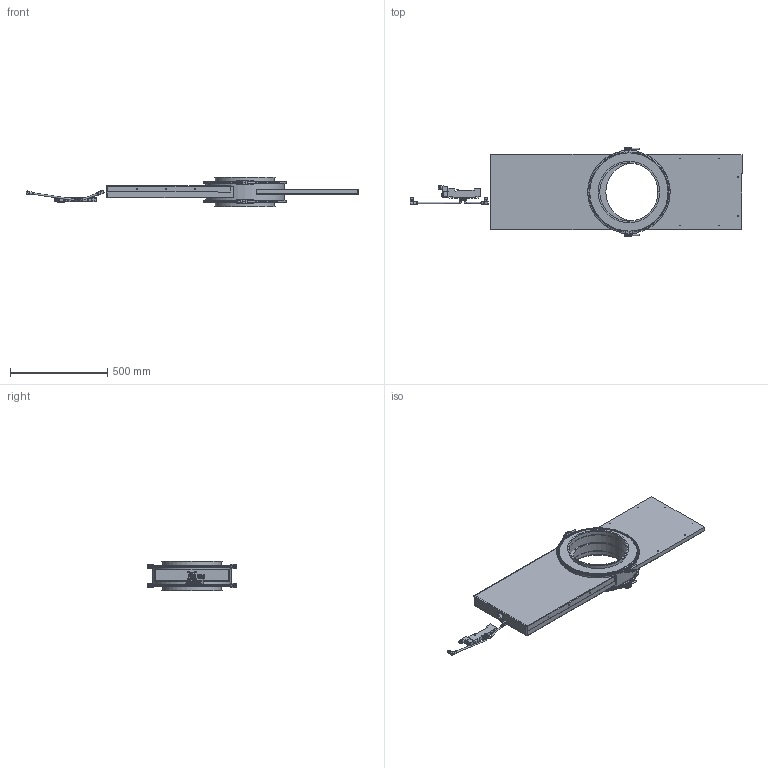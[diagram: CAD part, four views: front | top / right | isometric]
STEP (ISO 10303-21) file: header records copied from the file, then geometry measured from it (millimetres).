
FILE_DESCRIPTION((''),'2;1');
FILE_NAME('U:\Wolfgang\Marcel-3D\fertig\Kapitel 9\3021093.stp','2011-10-11T13:05:08',('iwienholt'),(''),'Autodesk Inventor 2010','Autodesk Inventor 2010','');
FILE_SCHEMA(('AUTOMOTIVE_DESIGN { 1 0 10303 214 1 1 1 1 }'));
Length unit declared in the file: millimetre
Products named in the file (23): 3021093; Einheit DN300; 4022055; 4022055-1; Verschluss b=424; Verschlussrolle; VerschlussrolleGewinde; ISO 4762 M8 x 70; 4022055-Dichtmasse; P.Schibereinheit DN300; 532759_DNCB_50_320_PPV_A_6_0; 537600_VUVB_S_B42_ZD_Q8_3AC1_6_0; 537600_VUVB_S_B42_ZD_Q8_3AC1_6_01; 537600_VUVB_S_B42_ZD_Q8_3AC1_6_02; 537600_VUVB_S_B42_ZD_Q8_3AC1_6_03; 4527_MSFG_24_42_50_60_6_0; 4527_MSFG_24_42_50_60_6_01; 4527_MSFG_24_42_50_60_6_02; 153414_QSRL_1_4_8_6_0; schlauch4; schlauch; 13570_CRSG_M12x125_6_0; P.Schieber DN300
Assembly tree (30 placements, depth 4):
  3021093
    Einheit DN300
    4022055  x2
      4022055-1
      Verschluss b=424
      Verschlussrolle
      VerschlussrolleGewinde
      ISO 4762 M8 x 70
      4022055-Dichtmasse
    P.Schibereinheit DN300
      537600_VUVB_S_B42_ZD_Q8_3AC1_6_0
        537600_VUVB_S_B42_ZD_Q8_3AC1_6_01
        537600_VUVB_S_B42_ZD_Q8_3AC1_6_02
        537600_VUVB_S_B42_ZD_Q8_3AC1_6_03
      4527_MSFG_24_42_50_60_6_0
        4527_MSFG_24_42_50_60_6_01
        4527_MSFG_24_42_50_60_6_02
      153414_QSRL_1_4_8_6_0  x2
      schlauch4
      schlauch
      13570_CRSG_M12x125_6_0
      P.Schieber DN300
  532759_DNCB_50_320_PPV_A_6_0
Bounding box: 1704.43 x 458 x 150 mm (x, y, z)
Volume: 7300112.4 mm3; surface area: 3011614.9 mm2
Topology: 38 solids, 38 shells, 1421 faces, 3602 edges, 2354 vertices
Faces by surface type: plane 542, cylinder 435, cone 204, bspline 198, torus 42
Full cylindrical faces by diameter (mm): 1 x3, 2.459 x1, 3 x2, 3.5 x1, 4 x1, 4.5 x1, 5 x21, 5.471 x2, 5.5 x1, 6 x13, 7.188 x1, 8 x29, 8.05 x1, 9 x1, 9.6 x2, 10.15 x2, 11.2 x2, 12 x11, 13 x4, 13.05 x2, 14 x6, 14.4 x4, 14.5 x2, 14.7 x6, 15.1 x2, 15.2 x1, 15.5 x1, 15.7 x1, 16 x1, 17 x2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
Entity records: 21700 total; most frequent: CARTESIAN_POINT 5479, DIRECTION 3328, ORIENTED_EDGE 2914, EDGE_CURVE 1457, AXIS2_PLACEMENT_3D 1295, VERTEX_POINT 1036, EDGE_LOOP 993, VECTOR 738
